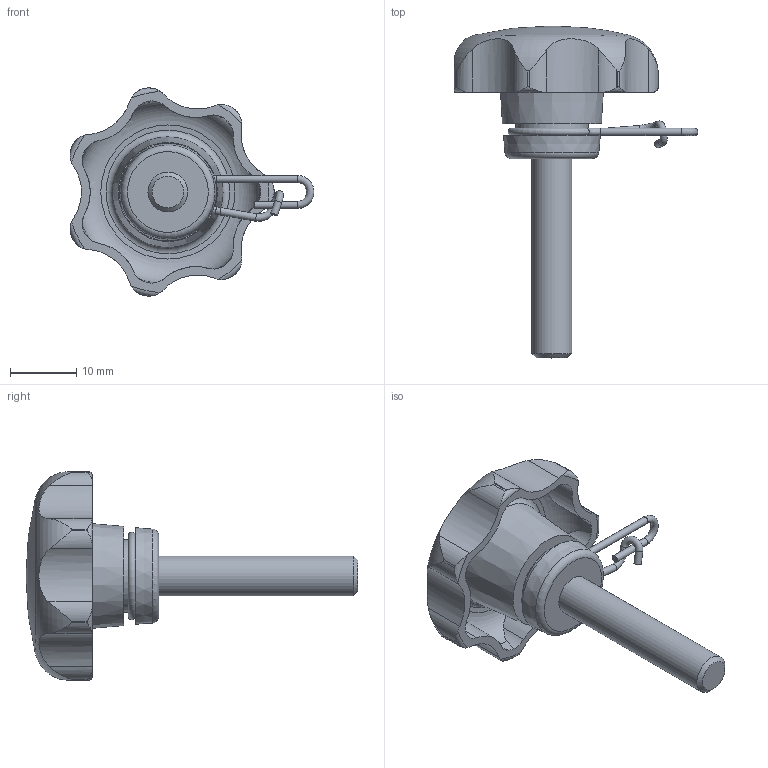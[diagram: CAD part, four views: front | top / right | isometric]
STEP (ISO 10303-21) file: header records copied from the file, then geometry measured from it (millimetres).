
FILE_DESCRIPTION( ( 'STEP AP203' ), '1' );
FILE_NAME( 'C:/Temp/Ganter_Step_05_03_2020/data/2_2/gn_6336_13/gn_6336_13_2/Star knob GN 6336.13-32-M6-30-A.stp', '2020-03-05T12:11:09', ( 'License CC BY-ND 4.0' ), ( 'CADENAS' ), ' ', 'PARTsolutions', ' ' );
FILE_SCHEMA( ( 'CONFIG_CONTROL_DESIGN' ) );
Length unit declared in the file: millimetre
Products named in the file (1): _Star knob GN 6336.13-32-M6-30-A
Bounding box: 36.72 x 50 x 31.36 mm (x, y, z)
Volume: 6540.5 mm3; surface area: 4083.3 mm2
Topology: 1 solids, 1 shells, 99 faces, 272 edges, 177 vertices
Faces by surface type: cylinder 61, torus 18, cone 11, plane 8, sphere 1
Full cylindrical faces by diameter (mm): 1.1 x4, 1.11 x1, 6 x1, 10.9 x1
Entity records: 3909 total; most frequent: CARTESIAN_POINT 1557, ORIENTED_EDGE 482, DIRECTION 461, EDGE_CURVE 241, AXIS2_PLACEMENT_3D 207, VERTEX_POINT 171, EDGE_LOOP 125, FACE_OUTER_BOUND 116
